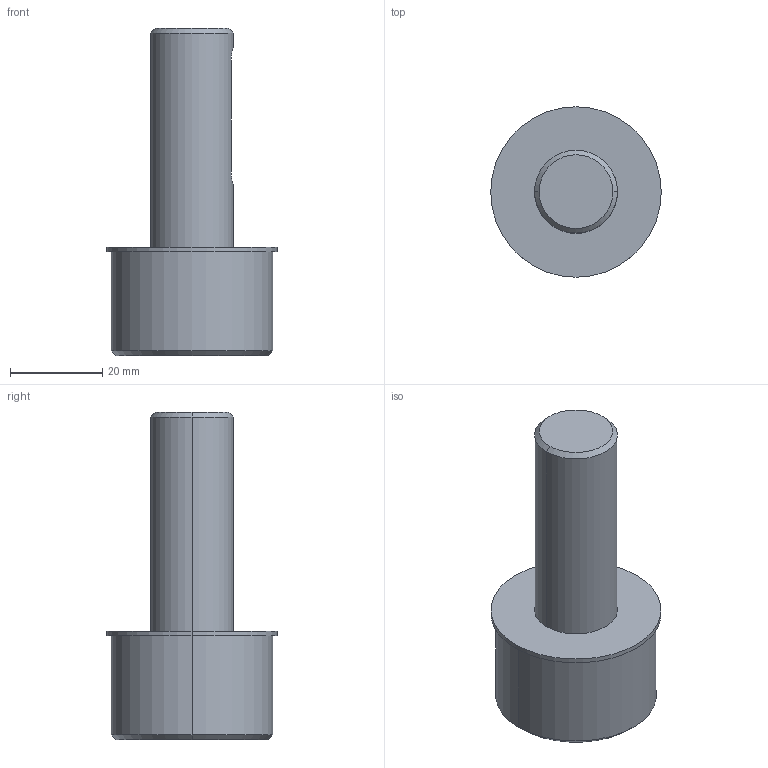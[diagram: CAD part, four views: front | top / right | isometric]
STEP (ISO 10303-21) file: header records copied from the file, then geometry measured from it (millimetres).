
FILE_DESCRIPTION((''),'2;1');
FILE_NAME('SJ-80-6','2018-10-15T',('OWNER'),(''),'PRO/ENGINEER BY PARAMETRIC TECHNOLOGY CORPORATION, 2009440','PRO/ENGINEER BY PARAMETRIC TECHNOLOGY CORPORATION, 2009440','');
FILE_SCHEMA(('CONFIG_CONTROL_DESIGN'));
Length unit declared in the file: millimetre
Products named in the file (1): SJ-80-6
Bounding box: 37 x 37 x 71 mm (x, y, z)
Volume: 34153.9 mm3; surface area: 7527.8 mm2
Topology: 1 solids, 1 shells, 19 faces, 41 edges, 26 vertices
Faces by surface type: cylinder 8, plane 7, cone 4
Entity records: 586 total; most frequent: CARTESIAN_POINT 121, DIRECTION 93, ORIENTED_EDGE 82, EDGE_CURVE 41, AXIS2_PLACEMENT_3D 37, VERTEX_POINT 26, EDGE_LOOP 21, VECTOR 19
